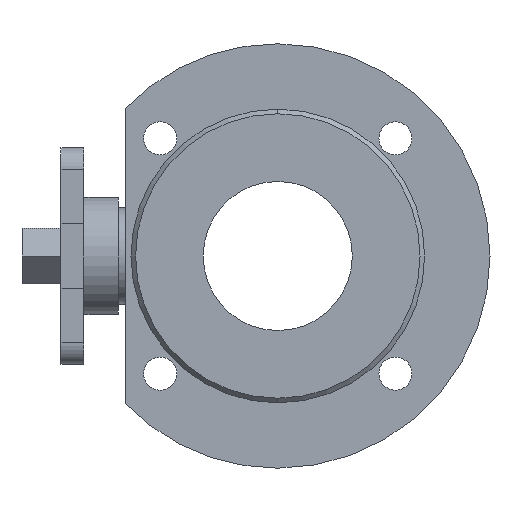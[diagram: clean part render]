
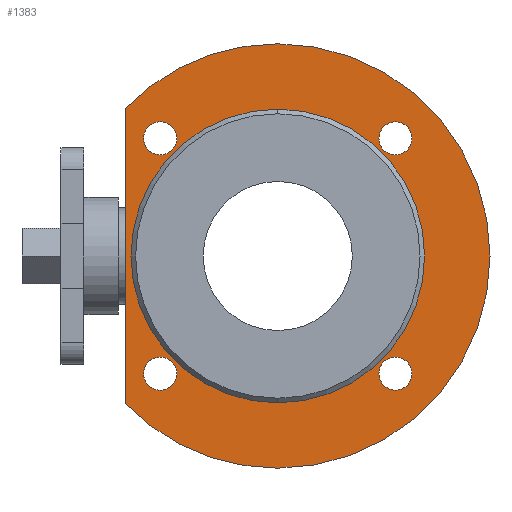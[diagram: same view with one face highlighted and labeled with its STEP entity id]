
A CAD part, left-side view. The second image highlights one B-rep face of the part: STEP entity #1383.
In plain terms, the highlighted planar face has unit normal (-1, 0, 0).
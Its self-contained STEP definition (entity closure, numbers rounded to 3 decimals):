
#11 = VERTEX_POINT ( 'NONE', #2634 ) ;
#41 = DIRECTION ( 'NONE',  ( -1., 0., 0. ) ) ;
#43 = CARTESIAN_POINT ( 'NONE',  ( -47., -51.265, 58.465 ) ) ;
#51 = DIRECTION ( 'NONE',  ( 0., 0., 1. ) ) ;
#67 = CARTESIAN_POINT ( 'NONE',  ( -47., 0., 0. ) ) ;
#123 = AXIS2_PLACEMENT_3D ( 'NONE', #1331, #2885, #1560 ) ;
#187 = ORIENTED_EDGE ( 'NONE', *, *, #408, .F. ) ;
#207 = DIRECTION ( 'NONE',  ( 0., -1., 0. ) ) ;
#221 = EDGE_CURVE ( 'NONE', #2780, #1471, #1555, .T. ) ;
#232 = EDGE_CURVE ( 'NONE', #1471, #2780, #2807, .T. ) ;
#270 = FACE_OUTER_BOUND ( 'NONE', #1454, .T. ) ;
#272 = VECTOR ( 'NONE', #1965, 1000. ) ;
#302 = EDGE_CURVE ( 'NONE', #1732, #11, #873, .T. ) ;
#306 = DIRECTION ( 'NONE',  ( 0., 0., 1. ) ) ;
#310 = AXIS2_PLACEMENT_3D ( 'NONE', #448, #1841, #459 ) ;
#359 = AXIS2_PLACEMENT_3D ( 'NONE', #2570, #1239, #2797 ) ;
#408 = EDGE_CURVE ( 'NONE', #11, #1732, #2460, .T. ) ;
#448 = CARTESIAN_POINT ( 'NONE',  ( -47., 92.5, 0. ) ) ;
#453 = EDGE_LOOP ( 'NONE', ( #752, #1670 ) ) ;
#459 = DIRECTION ( 'NONE',  ( 0., 0., -1. ) ) ;
#461 = ORIENTED_EDGE ( 'NONE', *, *, #1676, .F. ) ;
#466 = EDGE_LOOP ( 'NONE', ( #461, #2147 ) ) ;
#492 = CIRCLE ( 'NONE', #123, 92.5 ) ;
#514 = EDGE_CURVE ( 'NONE', #2265, #2888, #1590, .T. ) ;
#527 = CARTESIAN_POINT ( 'NONE',  ( -47., 0., -92.5 ) ) ;
#558 = VERTEX_POINT ( 'NONE', #527 ) ;
#579 = EDGE_CURVE ( 'NONE', #558, #1417, #1515, .T. ) ;
#587 = ORIENTED_EDGE ( 'NONE', *, *, #2323, .F. ) ;
#621 = ORIENTED_EDGE ( 'NONE', *, *, #514, .F. ) ;
#623 = CARTESIAN_POINT ( 'NONE',  ( -47., 66.5, 0. ) ) ;
#642 = CARTESIAN_POINT ( 'NONE',  ( -47., 0., -64. ) ) ;
#752 = ORIENTED_EDGE ( 'NONE', *, *, #221, .F. ) ;
#771 = CIRCLE ( 'NONE', #2375, 7.2 ) ;
#782 = ORIENTED_EDGE ( 'NONE', *, *, #1739, .T. ) ;
#783 = AXIS2_PLACEMENT_3D ( 'NONE', #1734, #2201, #863 ) ;
#801 = ORIENTED_EDGE ( 'NONE', *, *, #579, .T. ) ;
#863 = DIRECTION ( 'NONE',  ( 0., 1., 0. ) ) ;
#873 = CIRCLE ( 'NONE', #2319, 7.2 ) ;
#885 = CIRCLE ( 'NONE', #1716, 92.5 ) ;
#890 = AXIS2_PLACEMENT_3D ( 'NONE', #2491, #1176, #941 ) ;
#892 = FACE_BOUND ( 'NONE', #1265, .T. ) ;
#918 = DIRECTION ( 'NONE',  ( -1., 0., 0. ) ) ;
#941 = DIRECTION ( 'NONE',  ( 0., 0., 1. ) ) ;
#973 = FACE_BOUND ( 'NONE', #1258, .T. ) ;
#1022 = CARTESIAN_POINT ( 'NONE',  ( -47., 51.265, 51.265 ) ) ;
#1086 = DIRECTION ( 'NONE',  ( -1., 0., 0. ) ) ;
#1088 = VERTEX_POINT ( 'NONE', #1729 ) ;
#1134 = DIRECTION ( 'NONE',  ( -1., 0., 0. ) ) ;
#1174 = CARTESIAN_POINT ( 'NONE',  ( -47., 0., 64. ) ) ;
#1176 = DIRECTION ( 'NONE',  ( -1., 0., 0. ) ) ;
#1227 = VERTEX_POINT ( 'NONE', #1415 ) ;
#1239 = DIRECTION ( 'NONE',  ( -1., 0., 0. ) ) ;
#1258 = EDGE_LOOP ( 'NONE', ( #1557, #587 ) ) ;
#1265 = EDGE_LOOP ( 'NONE', ( #621, #2073 ) ) ;
#1278 = EDGE_CURVE ( 'NONE', #1088, #1795, #2443, .T. ) ;
#1305 = ORIENTED_EDGE ( 'NONE', *, *, #2070, .T. ) ;
#1307 = AXIS2_PLACEMENT_3D ( 'NONE', #1438, #41, #1673 ) ;
#1331 = CARTESIAN_POINT ( 'NONE',  ( -47., 0., 0. ) ) ;
#1355 = EDGE_CURVE ( 'NONE', #2888, #2265, #2166, .T. ) ;
#1383 = ADVANCED_FACE ( 'NONE', ( #973, #2680, #2099, #1500, #892, #270 ), #2496, .F. ) ;
#1415 = CARTESIAN_POINT ( 'NONE',  ( -47., -51.265, 44.065 ) ) ;
#1417 = VERTEX_POINT ( 'NONE', #2505 ) ;
#1429 = LINE ( 'NONE', #623, #272 ) ;
#1438 = CARTESIAN_POINT ( 'NONE',  ( -47., -51.265, -51.265 ) ) ;
#1445 = DIRECTION ( 'NONE',  ( -1., 0., 0. ) ) ;
#1454 = EDGE_LOOP ( 'NONE', ( #2392, #801, #782, #1305 ) ) ;
#1471 = VERTEX_POINT ( 'NONE', #1869 ) ;
#1500 = FACE_BOUND ( 'NONE', #2230, .T. ) ;
#1515 = CIRCLE ( 'NONE', #359, 92.5 ) ;
#1548 = CARTESIAN_POINT ( 'NONE',  ( -47., 51.265, 58.465 ) ) ;
#1555 = CIRCLE ( 'NONE', #783, 7.2 ) ;
#1556 = DIRECTION ( 'NONE',  ( 0., 1., 0. ) ) ;
#1557 = ORIENTED_EDGE ( 'NONE', *, *, #2343, .F. ) ;
#1560 = DIRECTION ( 'NONE',  ( 0., 0., 1. ) ) ;
#1588 = AXIS2_PLACEMENT_3D ( 'NONE', #2417, #1086, #2631 ) ;
#1590 = CIRCLE ( 'NONE', #2262, 64. ) ;
#1602 = DIRECTION ( 'NONE',  ( -1., 0., 0. ) ) ;
#1608 = CARTESIAN_POINT ( 'NONE',  ( -47., 66.5, -64.296 ) ) ;
#1632 = AXIS2_PLACEMENT_3D ( 'NONE', #2275, #918, #2487 ) ;
#1638 = VERTEX_POINT ( 'NONE', #1962 ) ;
#1670 = ORIENTED_EDGE ( 'NONE', *, *, #232, .F. ) ;
#1673 = DIRECTION ( 'NONE',  ( 0., 0., -1. ) ) ;
#1676 = EDGE_CURVE ( 'NONE', #1795, #1088, #1921, .T. ) ;
#1697 = DIRECTION ( 'NONE',  ( -1., 0., 0. ) ) ;
#1716 = AXIS2_PLACEMENT_3D ( 'NONE', #2464, #1134, #2683 ) ;
#1729 = CARTESIAN_POINT ( 'NONE',  ( -47., -51.265, -58.465 ) ) ;
#1732 = VERTEX_POINT ( 'NONE', #1548 ) ;
#1734 = CARTESIAN_POINT ( 'NONE',  ( -47., 51.265, -51.265 ) ) ;
#1739 = EDGE_CURVE ( 'NONE', #1417, #1638, #492, .T. ) ;
#1746 = DIRECTION ( 'NONE',  ( -1., 0., 0. ) ) ;
#1758 = DIRECTION ( 'NONE',  ( 0., 0., 1. ) ) ;
#1795 = VERTEX_POINT ( 'NONE', #2674 ) ;
#1841 = DIRECTION ( 'NONE',  ( 1., 0., 0. ) ) ;
#1869 = CARTESIAN_POINT ( 'NONE',  ( -47., 51.265, -58.465 ) ) ;
#1921 = CIRCLE ( 'NONE', #1588, 7.2 ) ;
#1962 = CARTESIAN_POINT ( 'NONE',  ( -47., 66.5, 64.296 ) ) ;
#1965 = DIRECTION ( 'NONE',  ( 0., 0., -1. ) ) ;
#1990 = CIRCLE ( 'NONE', #1632, 7.2 ) ;
#2013 = AXIS2_PLACEMENT_3D ( 'NONE', #2229, #2883, #1556 ) ;
#2048 = VERTEX_POINT ( 'NONE', #43 ) ;
#2062 = AXIS2_PLACEMENT_3D ( 'NONE', #67, #1697, #306 ) ;
#2070 = EDGE_CURVE ( 'NONE', #1638, #2866, #1429, .T. ) ;
#2073 = ORIENTED_EDGE ( 'NONE', *, *, #1355, .F. ) ;
#2099 = FACE_BOUND ( 'NONE', #453, .T. ) ;
#2147 = ORIENTED_EDGE ( 'NONE', *, *, #1278, .F. ) ;
#2166 = CIRCLE ( 'NONE', #2062, 64. ) ;
#2201 = DIRECTION ( 'NONE',  ( -1., 0., 0. ) ) ;
#2208 = ORIENTED_EDGE ( 'NONE', *, *, #302, .F. ) ;
#2229 = CARTESIAN_POINT ( 'NONE',  ( -47., 51.265, -51.265 ) ) ;
#2230 = EDGE_LOOP ( 'NONE', ( #2208, #187 ) ) ;
#2231 = CARTESIAN_POINT ( 'NONE',  ( -47., 51.265, -44.065 ) ) ;
#2262 = AXIS2_PLACEMENT_3D ( 'NONE', #2779, #1445, #51 ) ;
#2265 = VERTEX_POINT ( 'NONE', #642 ) ;
#2275 = CARTESIAN_POINT ( 'NONE',  ( -47., -51.265, 51.265 ) ) ;
#2319 = AXIS2_PLACEMENT_3D ( 'NONE', #1022, #1746, #1758 ) ;
#2323 = EDGE_CURVE ( 'NONE', #1227, #2048, #1990, .T. ) ;
#2343 = EDGE_CURVE ( 'NONE', #2048, #1227, #771, .T. ) ;
#2375 = AXIS2_PLACEMENT_3D ( 'NONE', #2928, #1602, #207 ) ;
#2392 = ORIENTED_EDGE ( 'NONE', *, *, #2782, .T. ) ;
#2417 = CARTESIAN_POINT ( 'NONE',  ( -47., -51.265, -51.265 ) ) ;
#2443 = CIRCLE ( 'NONE', #1307, 7.2 ) ;
#2460 = CIRCLE ( 'NONE', #890, 7.2 ) ;
#2464 = CARTESIAN_POINT ( 'NONE',  ( -47., 0., 0. ) ) ;
#2487 = DIRECTION ( 'NONE',  ( 0., -1., 0. ) ) ;
#2491 = CARTESIAN_POINT ( 'NONE',  ( -47., 51.265, 51.265 ) ) ;
#2496 = PLANE ( 'NONE',  #310 ) ;
#2505 = CARTESIAN_POINT ( 'NONE',  ( -47., 0., 92.5 ) ) ;
#2570 = CARTESIAN_POINT ( 'NONE',  ( -47., 0., 0. ) ) ;
#2631 = DIRECTION ( 'NONE',  ( 0., 0., -1. ) ) ;
#2634 = CARTESIAN_POINT ( 'NONE',  ( -47., 51.265, 44.065 ) ) ;
#2674 = CARTESIAN_POINT ( 'NONE',  ( -47., -51.265, -44.065 ) ) ;
#2680 = FACE_BOUND ( 'NONE', #466, .T. ) ;
#2683 = DIRECTION ( 'NONE',  ( 0., 0., 1. ) ) ;
#2779 = CARTESIAN_POINT ( 'NONE',  ( -47., 0., 0. ) ) ;
#2780 = VERTEX_POINT ( 'NONE', #2231 ) ;
#2782 = EDGE_CURVE ( 'NONE', #2866, #558, #885, .T. ) ;
#2797 = DIRECTION ( 'NONE',  ( 0., 0., 1. ) ) ;
#2807 = CIRCLE ( 'NONE', #2013, 7.2 ) ;
#2866 = VERTEX_POINT ( 'NONE', #1608 ) ;
#2883 = DIRECTION ( 'NONE',  ( -1., 0., 0. ) ) ;
#2885 = DIRECTION ( 'NONE',  ( -1., 0., 0. ) ) ;
#2888 = VERTEX_POINT ( 'NONE', #1174 ) ;
#2928 = CARTESIAN_POINT ( 'NONE',  ( -47., -51.265, 51.265 ) ) ;
